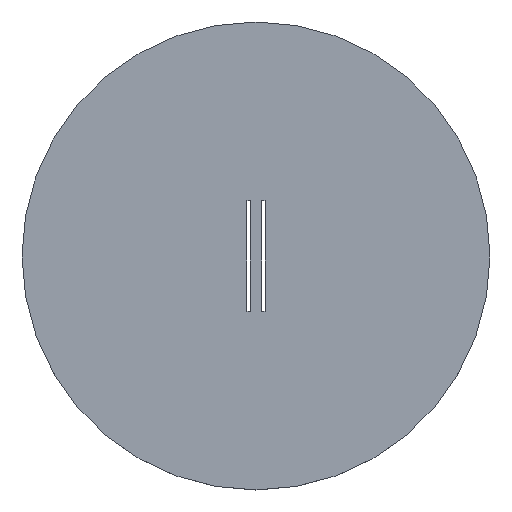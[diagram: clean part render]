
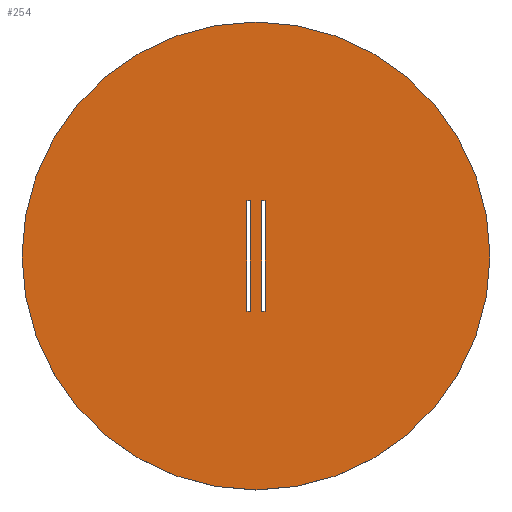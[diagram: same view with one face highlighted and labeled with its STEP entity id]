
A CAD part, top view. The second image highlights one B-rep face of the part: STEP entity #254.
In plain terms, the highlighted planar face has unit normal (0, 0, 1).
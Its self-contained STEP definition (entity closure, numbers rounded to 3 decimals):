
#51=CARTESIAN_POINT('',(0.,0.,0.7));
#52=DIRECTION('',(0.,0.,1.));
#53=DIRECTION('',(1.,0.,0.));
#54=AXIS2_PLACEMENT_3D('',#51,#52,#53);
#56=CARTESIAN_POINT('',(0.,0.,0.7));
#57=DIRECTION('',(0.,0.,1.));
#58=DIRECTION('',(-1.,0.,0.));
#59=AXIS2_PLACEMENT_3D('',#56,#57,#58);
#61=DIRECTION('',(0.,-1.,0.));
#62=VECTOR('',#61,3.);
#63=CARTESIAN_POINT('',(-0.25,1.5,0.7));
#64=LINE('',#63,#62);
#65=DIRECTION('',(1.,0.,0.));
#66=VECTOR('',#65,0.1);
#67=CARTESIAN_POINT('',(-0.25,-1.5,0.7));
#68=LINE('',#67,#66);
#69=DIRECTION('',(0.,1.,0.));
#70=VECTOR('',#69,3.);
#71=CARTESIAN_POINT('',(-0.15,-1.5,0.7));
#72=LINE('',#71,#70);
#73=DIRECTION('',(-1.,0.,0.));
#74=VECTOR('',#73,0.1);
#75=CARTESIAN_POINT('',(-0.15,1.5,0.7));
#76=LINE('',#75,#74);
#77=DIRECTION('',(0.,-1.,0.));
#78=VECTOR('',#77,3.);
#79=CARTESIAN_POINT('',(0.15,1.5,0.7));
#80=LINE('',#79,#78);
#81=DIRECTION('',(1.,0.,0.));
#82=VECTOR('',#81,0.1);
#83=CARTESIAN_POINT('',(0.15,-1.5,0.7));
#84=LINE('',#83,#82);
#85=DIRECTION('',(0.,1.,0.));
#86=VECTOR('',#85,3.);
#87=CARTESIAN_POINT('',(0.25,-1.5,0.7));
#88=LINE('',#87,#86);
#89=DIRECTION('',(-1.,0.,0.));
#90=VECTOR('',#89,0.1);
#91=CARTESIAN_POINT('',(0.25,1.5,0.7));
#92=LINE('',#91,#90);
#129=CARTESIAN_POINT('',(6.35,0.,0.7));
#130=CARTESIAN_POINT('',(-6.35,0.,0.7));
#131=VERTEX_POINT('',#129);
#132=VERTEX_POINT('',#130);
#149=CARTESIAN_POINT('',(-0.25,1.5,0.7));
#150=CARTESIAN_POINT('',(-0.25,-1.5,0.7));
#151=VERTEX_POINT('',#149);
#152=VERTEX_POINT('',#150);
#153=CARTESIAN_POINT('',(-0.15,-1.5,0.7));
#154=VERTEX_POINT('',#153);
#155=CARTESIAN_POINT('',(-0.15,1.5,0.7));
#156=VERTEX_POINT('',#155);
#157=CARTESIAN_POINT('',(0.15,1.5,0.7));
#158=CARTESIAN_POINT('',(0.15,-1.5,0.7));
#159=VERTEX_POINT('',#157);
#160=VERTEX_POINT('',#158);
#161=CARTESIAN_POINT('',(0.25,-1.5,0.7));
#162=VERTEX_POINT('',#161);
#163=CARTESIAN_POINT('',(0.25,1.5,0.7));
#164=VERTEX_POINT('',#163);
#225=CARTESIAN_POINT('',(0.,0.,0.7));
#226=DIRECTION('',(0.,0.,1.));
#227=DIRECTION('',(1.,0.,0.));
#228=AXIS2_PLACEMENT_3D('',#225,#226,#227);
#229=PLANE('',#228);
#230=ORIENTED_EDGE('',*,*,#205,.F.);
#231=ORIENTED_EDGE('',*,*,#219,.F.);
#232=EDGE_LOOP('',(#230,#231));
#233=FACE_OUTER_BOUND('',#232,.F.);
#235=ORIENTED_EDGE('',*,*,#234,.T.);
#237=ORIENTED_EDGE('',*,*,#236,.T.);
#239=ORIENTED_EDGE('',*,*,#238,.T.);
#241=ORIENTED_EDGE('',*,*,#240,.T.);
#242=EDGE_LOOP('',(#235,#237,#239,#241));
#243=FACE_BOUND('',#242,.F.);
#245=ORIENTED_EDGE('',*,*,#244,.T.);
#247=ORIENTED_EDGE('',*,*,#246,.T.);
#249=ORIENTED_EDGE('',*,*,#248,.T.);
#251=ORIENTED_EDGE('',*,*,#250,.T.);
#252=EDGE_LOOP('',(#245,#247,#249,#251));
#253=FACE_BOUND('',#252,.F.);
#254=ADVANCED_FACE('',(#233,#243,#253),#229,.T.);
#55=CIRCLE('',#54,6.35);
#60=CIRCLE('',#59,6.35);
#205=EDGE_CURVE('',#131,#132,#55,.T.);
#219=EDGE_CURVE('',#132,#131,#60,.T.);
#234=EDGE_CURVE('',#151,#152,#64,.T.);
#236=EDGE_CURVE('',#152,#154,#68,.T.);
#238=EDGE_CURVE('',#154,#156,#72,.T.);
#240=EDGE_CURVE('',#156,#151,#76,.T.);
#244=EDGE_CURVE('',#159,#160,#80,.T.);
#246=EDGE_CURVE('',#160,#162,#84,.T.);
#248=EDGE_CURVE('',#162,#164,#88,.T.);
#250=EDGE_CURVE('',#164,#159,#92,.T.);
